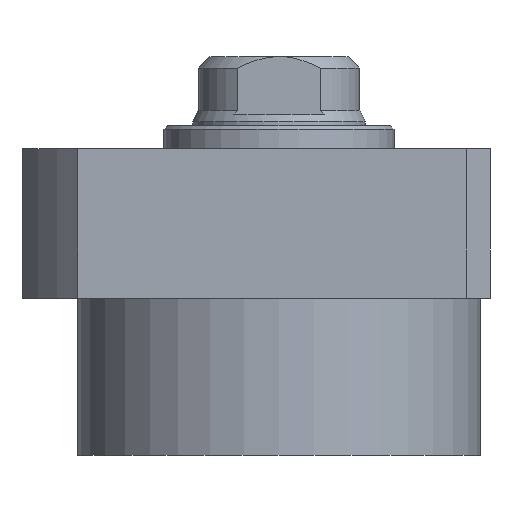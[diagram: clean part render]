
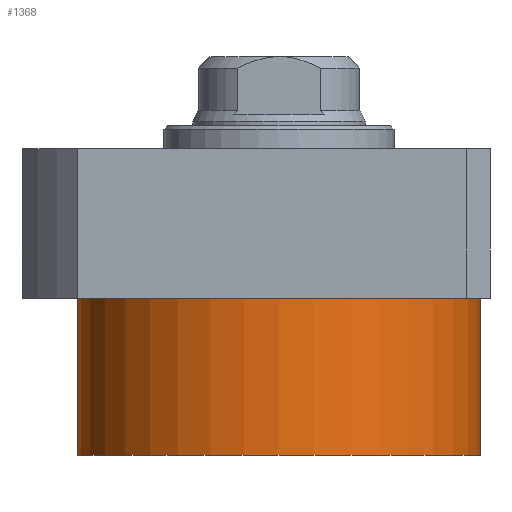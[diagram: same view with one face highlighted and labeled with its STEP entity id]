
A CAD part, front view. The second image highlights one B-rep face of the part: STEP entity #1368.
In plain terms, the highlighted cylindrical face has radius 52.5 mm (diameter 105 mm), a partial arc.
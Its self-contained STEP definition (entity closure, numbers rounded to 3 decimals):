
#15 = LINE ( 'NONE', #1451, #354 ) ;
#28 = ORIENTED_EDGE ( 'NONE', *, *, #1195, .F. ) ;
#48 = ORIENTED_EDGE ( 'NONE', *, *, #1654, .T. ) ;
#56 = DIRECTION ( 'NONE',  ( 0., 0., 1. ) ) ;
#57 = VERTEX_POINT ( 'NONE', #602 ) ;
#62 = CARTESIAN_POINT ( 'NONE',  ( 52.5, 0., -19.5 ) ) ;
#182 = DIRECTION ( 'NONE',  ( -1., 0., 0. ) ) ;
#192 = AXIS2_PLACEMENT_3D ( 'NONE', #1586, #1561, #1848 ) ;
#249 = VECTOR ( 'NONE', #56, 1000. ) ;
#279 = ORIENTED_EDGE ( 'NONE', *, *, #1745, .T. ) ;
#310 = VERTEX_POINT ( 'NONE', #62 ) ;
#351 = CARTESIAN_POINT ( 'NONE',  ( 0., 0., -60.5 ) ) ;
#354 = VECTOR ( 'NONE', #1156, 1000. ) ;
#408 = AXIS2_PLACEMENT_3D ( 'NONE', #351, #653, #182 ) ;
#413 = CARTESIAN_POINT ( 'NONE',  ( 52.5, 0., -60.5 ) ) ;
#472 = CARTESIAN_POINT ( 'NONE',  ( -52.5, 0., -60.5 ) ) ;
#521 = VERTEX_POINT ( 'NONE', #1170 ) ;
#602 = CARTESIAN_POINT ( 'NONE',  ( -52.5, 0., -19.5 ) ) ;
#626 = CIRCLE ( 'NONE', #934, 52.5 ) ;
#653 = DIRECTION ( 'NONE',  ( 0., 0., -1. ) ) ;
#727 = FACE_OUTER_BOUND ( 'NONE', #1560, .T. ) ;
#933 = DIRECTION ( 'NONE',  ( 0., 0., -1. ) ) ;
#934 = AXIS2_PLACEMENT_3D ( 'NONE', #1080, #933, #1827 ) ;
#1044 = CIRCLE ( 'NONE', #408, 52.5 ) ;
#1066 = LINE ( 'NONE', #472, #249 ) ;
#1080 = CARTESIAN_POINT ( 'NONE',  ( 0., 0., -19.5 ) ) ;
#1083 = CYLINDRICAL_SURFACE ( 'NONE', #192, 52.5 ) ;
#1156 = DIRECTION ( 'NONE',  ( 0., 0., 1. ) ) ;
#1170 = CARTESIAN_POINT ( 'NONE',  ( -52.5, 0., -60.5 ) ) ;
#1175 = ORIENTED_EDGE ( 'NONE', *, *, #1697, .F. ) ;
#1195 = EDGE_CURVE ( 'NONE', #1535, #521, #1044, .T. ) ;
#1368 = ADVANCED_FACE ( 'NONE', ( #727 ), #1083, .T. ) ;
#1451 = CARTESIAN_POINT ( 'NONE',  ( 52.5, 0., -60.5 ) ) ;
#1535 = VERTEX_POINT ( 'NONE', #413 ) ;
#1560 = EDGE_LOOP ( 'NONE', ( #1175, #28, #279, #48 ) ) ;
#1561 = DIRECTION ( 'NONE',  ( 0., 0., 1. ) ) ;
#1586 = CARTESIAN_POINT ( 'NONE',  ( 0., 0., -60.5 ) ) ;
#1654 = EDGE_CURVE ( 'NONE', #310, #57, #626, .T. ) ;
#1697 = EDGE_CURVE ( 'NONE', #521, #57, #1066, .T. ) ;
#1745 = EDGE_CURVE ( 'NONE', #1535, #310, #15, .T. ) ;
#1827 = DIRECTION ( 'NONE',  ( 1., 0., 0. ) ) ;
#1848 = DIRECTION ( 'NONE',  ( 1., 0., 0. ) ) ;
